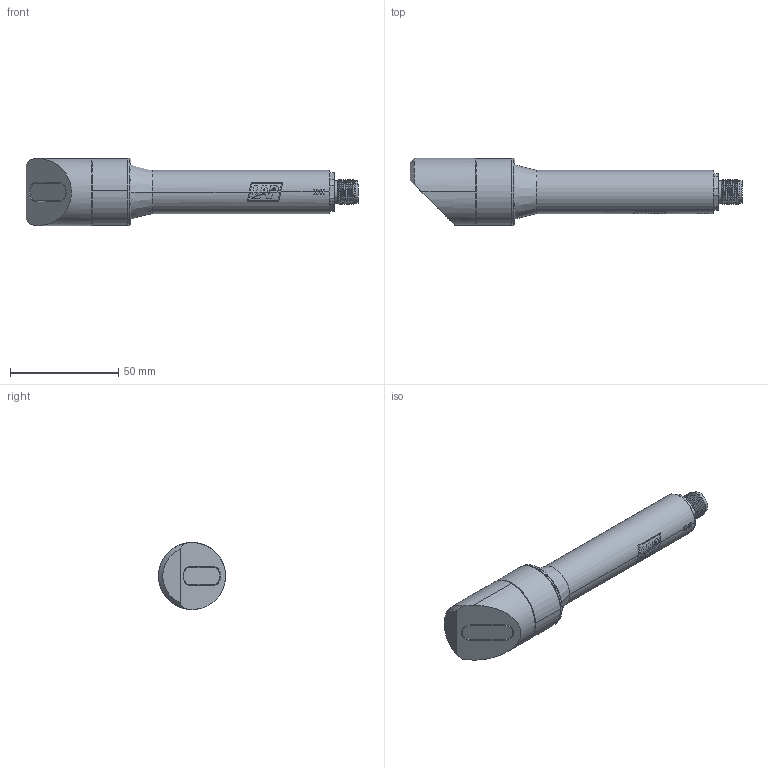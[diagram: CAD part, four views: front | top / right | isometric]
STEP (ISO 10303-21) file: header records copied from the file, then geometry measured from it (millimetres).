
FILE_DESCRIPTION (( 'STEP AP203' ), '1' );
FILE_NAME ('0015060 Linienlaser HD HU.STEP', '2018-11-23T09:31:18', ( '' ), ( '' ), 'SwSTEP 2.0', 'SolidWorks 2016', '' );
FILE_SCHEMA (( 'CONFIG_CONTROL_DESIGN' ));
Length unit declared in the file: millimetre
Products named in the file (1): 0015060 Linienlaser HD HU
Bounding box: 153.5 x 31 x 31 mm (x, y, z)
Volume: 35257 mm3; surface area: 30518.5 mm2
Topology: 13 solids, 13 shells, 833 faces, 2007 edges, 1207 vertices
Faces by surface type: plane 368, cylinder 288, cone 101, torus 40, bspline 30, sphere 6
Entity records: 25264 total; most frequent: CARTESIAN_POINT 6193, DIRECTION 3977, ORIENTED_EDGE 3950, EDGE_CURVE 1975, AXIS2_PLACEMENT_3D 1466, VERTEX_POINT 1199, VECTOR 1045, LINE 1045
